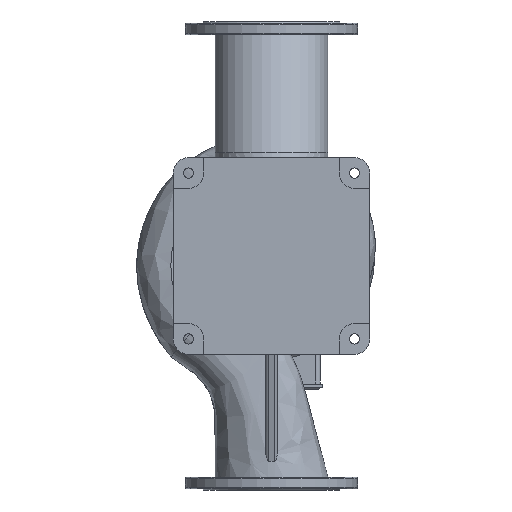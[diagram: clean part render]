
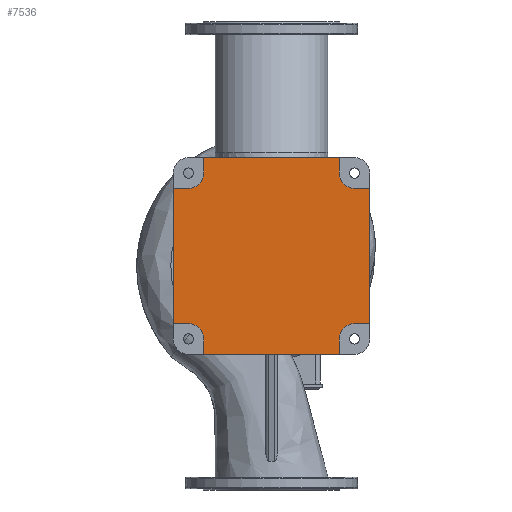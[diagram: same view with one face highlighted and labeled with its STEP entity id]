
A CAD part, front view. The second image highlights one B-rep face of the part: STEP entity #7536.
In plain terms, the highlighted planar face has unit normal (0, -1, 0).
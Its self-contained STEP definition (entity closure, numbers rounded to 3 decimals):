
#728 = VERTEX_POINT ( 'NONE', #22065 ) ;
#794 = VERTEX_POINT ( 'NONE', #29994 ) ;
#1020 = EDGE_CURVE ( 'NONE', #32424, #10308, #23049, .T. ) ;
#1084 = EDGE_CURVE ( 'NONE', #17689, #20504, #3394, .T. ) ;
#1204 = ORIENTED_EDGE ( 'NONE', *, *, #9927, .T. ) ;
#1265 = DIRECTION ( 'NONE',  ( 0., 1., 0. ) ) ;
#1888 = EDGE_CURVE ( 'NONE', #25496, #32424, #18859, .T. ) ;
#2451 = EDGE_CURVE ( 'NONE', #728, #29987, #19769, .T. ) ;
#3172 = DIRECTION ( 'NONE',  ( 0., 0., 1. ) ) ;
#3234 = EDGE_CURVE ( 'NONE', #28986, #28765, #30708, .T. ) ;
#3394 = LINE ( 'NONE', #3561, #15729 ) ;
#3561 = CARTESIAN_POINT ( 'NONE',  ( -195., -295., 159. ) ) ;
#3652 = CARTESIAN_POINT ( 'NONE',  ( -195., -295., -195. ) ) ;
#4175 = CARTESIAN_POINT ( 'NONE',  ( 159., -295., 231. ) ) ;
#4199 = DIRECTION ( 'NONE',  ( 0., 0., 1. ) ) ;
#4215 = AXIS2_PLACEMENT_3D ( 'NONE', #25847, #17749, #28071 ) ;
#4272 = LINE ( 'NONE', #32887, #18173 ) ;
#4654 = EDGE_CURVE ( 'NONE', #16478, #28986, #30402, .T. ) ;
#4758 = VERTEX_POINT ( 'NONE', #4175 ) ;
#4994 = EDGE_LOOP ( 'NONE', ( #29032, #21006, #31917, #14924, #13264, #8808, #5290, #20549, #32652, #5406, #1204, #14586, #12221, #27257, #7137, #25904 ) ) ;
#5290 = ORIENTED_EDGE ( 'NONE', *, *, #1020, .T. ) ;
#5406 = ORIENTED_EDGE ( 'NONE', *, *, #28228, .T. ) ;
#5876 = LINE ( 'NONE', #29390, #25783 ) ;
#5963 = DIRECTION ( 'NONE',  ( 0., 0., 1. ) ) ;
#6165 = CARTESIAN_POINT ( 'NONE',  ( 159., -295., 195. ) ) ;
#6175 = FACE_OUTER_BOUND ( 'NONE', #4994, .T. ) ;
#6839 = AXIS2_PLACEMENT_3D ( 'NONE', #11616, #16199, #29575 ) ;
#7137 = ORIENTED_EDGE ( 'NONE', *, *, #8099, .T. ) ;
#7211 = CARTESIAN_POINT ( 'NONE',  ( -195., -295., -159. ) ) ;
#7421 = LINE ( 'NONE', #32815, #8389 ) ;
#7536 = ADVANCED_FACE ( 'NONE', ( #6175 ), #26831, .F. ) ;
#8099 = EDGE_CURVE ( 'NONE', #20504, #16478, #4272, .T. ) ;
#8389 = VECTOR ( 'NONE', #25175, 1000. ) ;
#8441 = DIRECTION ( 'NONE',  ( 1., 0., 0. ) ) ;
#8519 = EDGE_CURVE ( 'NONE', #10308, #728, #16603, .T. ) ;
#8808 = ORIENTED_EDGE ( 'NONE', *, *, #1888, .T. ) ;
#8883 = VECTOR ( 'NONE', #20075, 1000. ) ;
#9035 = CARTESIAN_POINT ( 'NONE',  ( 159., -295., -231. ) ) ;
#9048 = CIRCLE ( 'NONE', #18253, 36. ) ;
#9927 = EDGE_CURVE ( 'NONE', #4758, #25524, #7421, .T. ) ;
#10308 = VERTEX_POINT ( 'NONE', #26671 ) ;
#10333 = CARTESIAN_POINT ( 'NONE',  ( -195., -295., -159. ) ) ;
#10435 = CARTESIAN_POINT ( 'NONE',  ( -159., -295., 231. ) ) ;
#10736 = DIRECTION ( 'NONE',  ( 1., 0., 0. ) ) ;
#10840 = CARTESIAN_POINT ( 'NONE',  ( -195., -295., 159. ) ) ;
#11433 = DIRECTION ( 'NONE',  ( 0., 0., 1. ) ) ;
#11616 = CARTESIAN_POINT ( 'NONE',  ( -195., -295., 195. ) ) ;
#11663 = VERTEX_POINT ( 'NONE', #29394 ) ;
#11665 = EDGE_CURVE ( 'NONE', #794, #17689, #28463, .T. ) ;
#12221 = ORIENTED_EDGE ( 'NONE', *, *, #11665, .T. ) ;
#12496 = EDGE_CURVE ( 'NONE', #23425, #29397, #32872, .T. ) ;
#13103 = CARTESIAN_POINT ( 'NONE',  ( 195., -295., -159. ) ) ;
#13264 = ORIENTED_EDGE ( 'NONE', *, *, #16322, .T. ) ;
#13306 = LINE ( 'NONE', #23141, #25166 ) ;
#13721 = DIRECTION ( 'NONE',  ( -1., 0., 0. ) ) ;
#14437 = EDGE_CURVE ( 'NONE', #11663, #23425, #31619, .T. ) ;
#14586 = ORIENTED_EDGE ( 'NONE', *, *, #32471, .T. ) ;
#14924 = ORIENTED_EDGE ( 'NONE', *, *, #12496, .T. ) ;
#15729 = VECTOR ( 'NONE', #32167, 1000. ) ;
#15990 = VECTOR ( 'NONE', #8441, 1000. ) ;
#16199 = DIRECTION ( 'NONE',  ( 0., 1., 0. ) ) ;
#16322 = EDGE_CURVE ( 'NONE', #29397, #25496, #9048, .T. ) ;
#16456 = VECTOR ( 'NONE', #28043, 1000. ) ;
#16478 = VERTEX_POINT ( 'NONE', #24400 ) ;
#16560 = VECTOR ( 'NONE', #13721, 1000. ) ;
#16603 = LINE ( 'NONE', #26932, #16560 ) ;
#17689 = VERTEX_POINT ( 'NONE', #10840 ) ;
#17749 = DIRECTION ( 'NONE',  ( 0., 1., 0. ) ) ;
#18173 = VECTOR ( 'NONE', #28133, 1000. ) ;
#18253 = AXIS2_PLACEMENT_3D ( 'NONE', #18651, #28812, #5963 ) ;
#18382 = CARTESIAN_POINT ( 'NONE',  ( 195., -295., -159. ) ) ;
#18651 = CARTESIAN_POINT ( 'NONE',  ( 195., -295., -195. ) ) ;
#18859 = LINE ( 'NONE', #13103, #20572 ) ;
#19652 = DIRECTION ( 'NONE',  ( 0., 0., 1. ) ) ;
#19769 = CIRCLE ( 'NONE', #28950, 36. ) ;
#19782 = CARTESIAN_POINT ( 'NONE',  ( 159., -295., -195. ) ) ;
#19924 = CARTESIAN_POINT ( 'NONE',  ( 231., -295., -159. ) ) ;
#20075 = DIRECTION ( 'NONE',  ( 1., 0., 0. ) ) ;
#20504 = VERTEX_POINT ( 'NONE', #33461 ) ;
#20549 = ORIENTED_EDGE ( 'NONE', *, *, #8519, .T. ) ;
#20572 = VECTOR ( 'NONE', #10736, 1000. ) ;
#20931 = DIRECTION ( 'NONE',  ( 0., 0., -1. ) ) ;
#21006 = ORIENTED_EDGE ( 'NONE', *, *, #22761, .T. ) ;
#22065 = CARTESIAN_POINT ( 'NONE',  ( 195., -295., 159. ) ) ;
#22452 = LINE ( 'NONE', #32784, #16456 ) ;
#22493 = AXIS2_PLACEMENT_3D ( 'NONE', #3652, #1265, #11433 ) ;
#22529 = VECTOR ( 'NONE', #19652, 1000. ) ;
#22761 = EDGE_CURVE ( 'NONE', #28765, #11663, #13306, .T. ) ;
#23049 = LINE ( 'NONE', #26073, #32504 ) ;
#23141 = CARTESIAN_POINT ( 'NONE',  ( -159., -295., -195. ) ) ;
#23425 = VERTEX_POINT ( 'NONE', #9035 ) ;
#23533 = DIRECTION ( 'NONE',  ( 0., 0., 1. ) ) ;
#24400 = CARTESIAN_POINT ( 'NONE',  ( -231., -295., -159. ) ) ;
#25166 = VECTOR ( 'NONE', #20931, 1000. ) ;
#25168 = CARTESIAN_POINT ( 'NONE',  ( 195., -295., 195. ) ) ;
#25175 = DIRECTION ( 'NONE',  ( -1., 0., 0. ) ) ;
#25496 = VERTEX_POINT ( 'NONE', #18382 ) ;
#25524 = VERTEX_POINT ( 'NONE', #10435 ) ;
#25783 = VECTOR ( 'NONE', #3172, 1000. ) ;
#25847 = CARTESIAN_POINT ( 'NONE',  ( -195., -295., -195. ) ) ;
#25904 = ORIENTED_EDGE ( 'NONE', *, *, #4654, .T. ) ;
#26073 = CARTESIAN_POINT ( 'NONE',  ( 231., -295., 159. ) ) ;
#26671 = CARTESIAN_POINT ( 'NONE',  ( 231., -295., 159. ) ) ;
#26831 = PLANE ( 'NONE',  #22493 ) ;
#26932 = CARTESIAN_POINT ( 'NONE',  ( 195., -295., 159. ) ) ;
#27257 = ORIENTED_EDGE ( 'NONE', *, *, #1084, .T. ) ;
#28043 = DIRECTION ( 'NONE',  ( 0., 0., -1. ) ) ;
#28071 = DIRECTION ( 'NONE',  ( 0., 0., 1. ) ) ;
#28133 = DIRECTION ( 'NONE',  ( 0., 0., -1. ) ) ;
#28228 = EDGE_CURVE ( 'NONE', #29987, #4758, #5876, .T. ) ;
#28463 = CIRCLE ( 'NONE', #6839, 36. ) ;
#28765 = VERTEX_POINT ( 'NONE', #32372 ) ;
#28812 = DIRECTION ( 'NONE',  ( 0., 1., 0. ) ) ;
#28950 = AXIS2_PLACEMENT_3D ( 'NONE', #25168, #32628, #4199 ) ;
#28986 = VERTEX_POINT ( 'NONE', #10333 ) ;
#29032 = ORIENTED_EDGE ( 'NONE', *, *, #3234, .T. ) ;
#29390 = CARTESIAN_POINT ( 'NONE',  ( 159., -295., 195. ) ) ;
#29394 = CARTESIAN_POINT ( 'NONE',  ( -159., -295., -231. ) ) ;
#29397 = VERTEX_POINT ( 'NONE', #19782 ) ;
#29575 = DIRECTION ( 'NONE',  ( 0., 0., 1. ) ) ;
#29987 = VERTEX_POINT ( 'NONE', #6165 ) ;
#29994 = CARTESIAN_POINT ( 'NONE',  ( -159., -295., 195. ) ) ;
#30402 = LINE ( 'NONE', #7211, #8883 ) ;
#30708 = CIRCLE ( 'NONE', #4215, 36. ) ;
#31619 = LINE ( 'NONE', #31806, #15990 ) ;
#31806 = CARTESIAN_POINT ( 'NONE',  ( 159., -295., -231. ) ) ;
#31917 = ORIENTED_EDGE ( 'NONE', *, *, #14437, .T. ) ;
#32167 = DIRECTION ( 'NONE',  ( -1., 0., 0. ) ) ;
#32196 = CARTESIAN_POINT ( 'NONE',  ( 159., -295., -195. ) ) ;
#32372 = CARTESIAN_POINT ( 'NONE',  ( -159., -295., -195. ) ) ;
#32424 = VERTEX_POINT ( 'NONE', #19924 ) ;
#32471 = EDGE_CURVE ( 'NONE', #25524, #794, #22452, .T. ) ;
#32504 = VECTOR ( 'NONE', #23533, 1000. ) ;
#32628 = DIRECTION ( 'NONE',  ( 0., 1., 0. ) ) ;
#32652 = ORIENTED_EDGE ( 'NONE', *, *, #2451, .T. ) ;
#32784 = CARTESIAN_POINT ( 'NONE',  ( -159., -295., 195. ) ) ;
#32815 = CARTESIAN_POINT ( 'NONE',  ( -159., -295., 231. ) ) ;
#32872 = LINE ( 'NONE', #32196, #22529 ) ;
#32887 = CARTESIAN_POINT ( 'NONE',  ( -231., -295., -159. ) ) ;
#33461 = CARTESIAN_POINT ( 'NONE',  ( -231., -295., 159. ) ) ;
